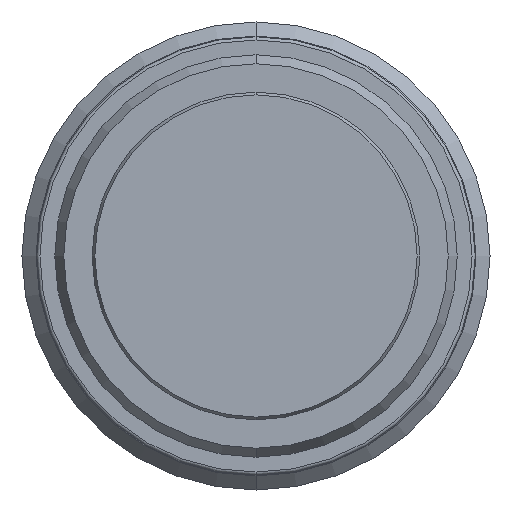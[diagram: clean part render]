
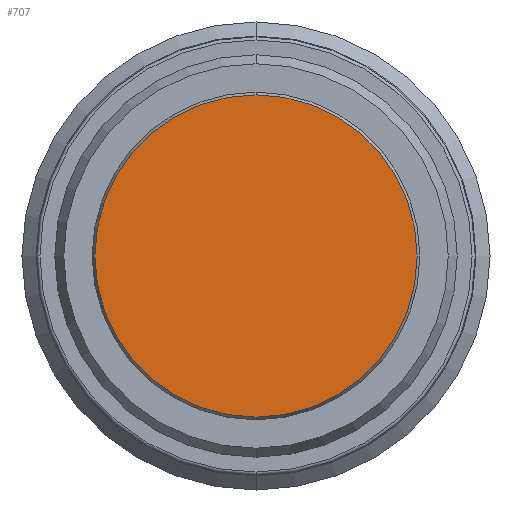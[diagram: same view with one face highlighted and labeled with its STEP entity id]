
A CAD part, front view. The second image highlights one B-rep face of the part: STEP entity #707.
In plain terms, the highlighted planar face has unit normal (0, -1, 0).
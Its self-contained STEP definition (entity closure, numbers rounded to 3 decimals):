
#204=PLANE('',#2882);
#707=ADVANCED_FACE('',(#900),#204,.T.);
#900=FACE_OUTER_BOUND('',#1057,.T.);
#1057=EDGE_LOOP('',(#1411,#1412));
#1411=ORIENTED_EDGE('',*,*,#2200,.F.);
#1412=ORIENTED_EDGE('',*,*,#2307,.F.);
#1965=VERTEX_POINT('',#4058);
#1966=VERTEX_POINT('',#4059);
#2200=EDGE_CURVE('',#1965,#1966,#2584,.T.);
#2307=EDGE_CURVE('',#1966,#1965,#2629,.T.);
#2584=CIRCLE('',#2791,10.327);
#2629=CIRCLE('',#2880,10.327);
#2791=AXIS2_PLACEMENT_3D('',#4057,#3180,#3181);
#2880=AXIS2_PLACEMENT_3D('',#4340,#3400,#3401);
#2882=AXIS2_PLACEMENT_3D('',#4342,#3404,#3405);
#3180=DIRECTION('',(0.,1.,0.));
#3181=DIRECTION('',(0.,0.,1.));
#3400=DIRECTION('',(0.,1.,0.));
#3401=DIRECTION('',(0.,0.,1.));
#3404=DIRECTION('',(0.,-1.,0.));
#3405=DIRECTION('',(0.,0.,-1.));
#4057=CARTESIAN_POINT('',(0.,-2.5,0.));
#4058=CARTESIAN_POINT('',(0.,-2.5,10.327));
#4059=CARTESIAN_POINT('',(0.,-2.5,-10.327));
#4340=CARTESIAN_POINT('',(0.,-2.5,0.));
#4342=CARTESIAN_POINT('',(0.,-2.5,0.));
